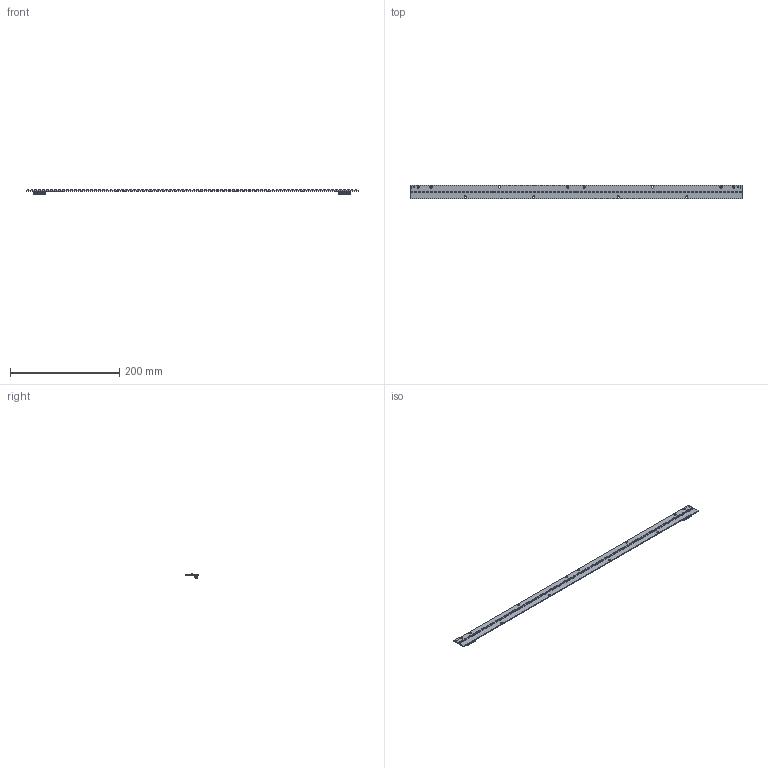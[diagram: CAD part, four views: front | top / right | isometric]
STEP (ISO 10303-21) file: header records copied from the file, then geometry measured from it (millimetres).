
FILE_DESCRIPTION (( 'STEP AP203' ), '1' );
FILE_NAME ('24.700.033.01 A PCBA 24 INCH BOTTOM CONNECTOR.STEP', '2017-11-13T19:27:32', ( '' ), ( '' ), 'SwSTEP 2.0', 'SolidWorks 2017', '' );
FILE_SCHEMA (( 'CONFIG_CONTROL_DESIGN' ));
Length unit declared in the file: millimetre
Products named in the file (6): lumileds 3535L; 24.700.033.01 A PCBA 24 INCH BOTTOM CONNECTOR; 22.700.033.01 1 PCBA 2 FOOT LUMENETIX; DIRECTION ARROW; 462.038 16 PIN CONNECTOR 8-188275-6; TEST PADS
Assembly tree (90 placements, depth 2):
  24.700.033.01 A PCBA 24 INCH BOTTOM CONNECTOR
    22.700.033.01 1 PCBA 2 FOOT LUMENETIX
    lumileds 3535L  x84
    462.038 16 PIN CONNECTOR 8-188275-6  x2
    TEST PADS
    DIRECTION ARROW  x2
Bounding box: 607.02 x 24 x 7.7 mm (x, y, z)
Volume: 24899.4 mm3; surface area: 38439 mm2
Topology: 361 solids, 361 shells, 3752 faces, 9086 edges, 6056 vertices
Faces by surface type: plane 3192, cylinder 560
Entity records: 34495 total; most frequent: CARTESIAN_POINT 5621, ORIENTED_EDGE 5474, DIRECTION 5277, EDGE_CURVE 2737, VECTOR 2317, LINE 2317, VERTEX_POINT 1824, AXIS2_PLACEMENT_3D 1480
